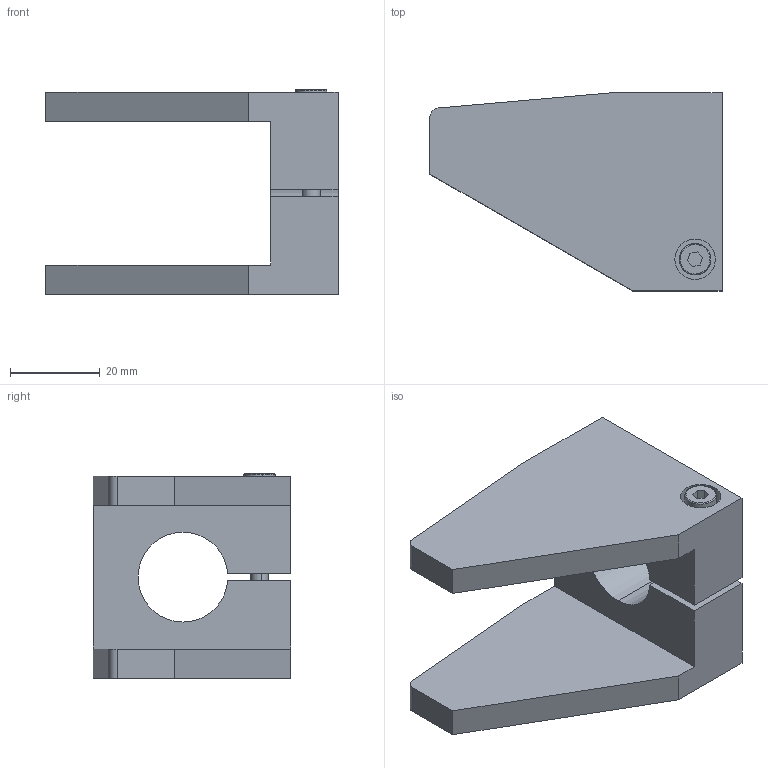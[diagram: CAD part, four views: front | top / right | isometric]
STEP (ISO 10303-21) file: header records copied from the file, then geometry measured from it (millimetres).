
FILE_DESCRIPTION (( 'STEP AP214' ), '1' );
FILE_NAME ('GP1-30.STEP', '2019-11-13T03:04:35', ( '微软用户' ), ( '微软中国' ), 'SwSTEP 2.0', 'SolidWorks 2016', '' );
FILE_SCHEMA (( 'AUTOMOTIVE_DESIGN' ));
Length unit declared in the file: millimetre
Products named in the file (1): GP1-30
Bounding box: 65 x 44 x 45.5 mm (x, y, z)
Volume: 44519.6 mm3; surface area: 15656.3 mm2
Topology: 3 solids, 3 shells, 243 faces, 698 edges, 462 vertices
Faces by surface type: plane 220, cylinder 19, cone 2, bspline 2
Entity records: 10840 total; most frequent: CARTESIAN_POINT 1528, DIRECTION 1404, ORIENTED_EDGE 1396, EDGE_CURVE 698, LINE 468, AXIS2_PLACEMENT_3D 468, VECTOR 468, VERTEX_POINT 462
